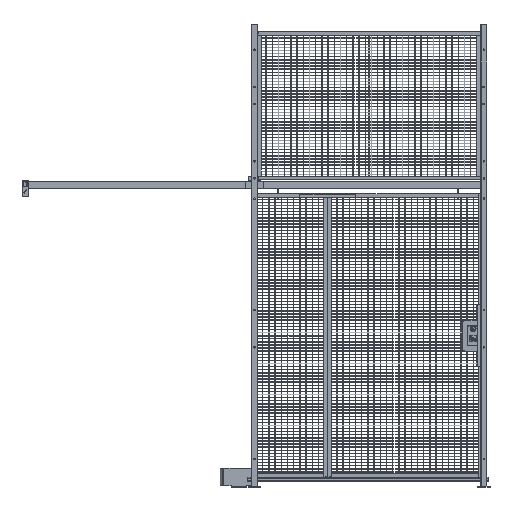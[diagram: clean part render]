
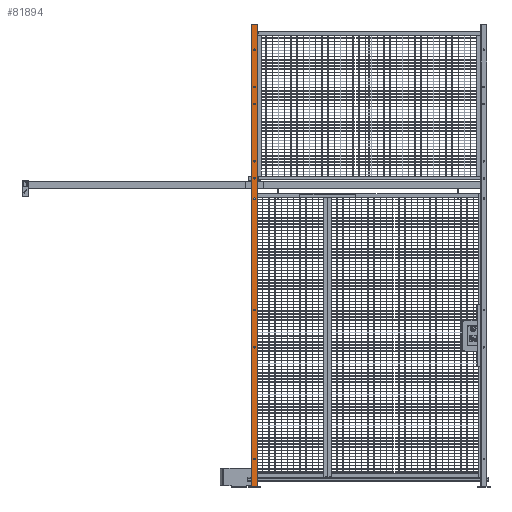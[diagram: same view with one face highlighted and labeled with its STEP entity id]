
A CAD part, top view. The second image highlights one B-rep face of the part: STEP entity #81894.
In plain terms, the highlighted planar face has unit normal (0, 0, 1) as drawn and (-1, 0, 0) by its records, which use the part's own axes.
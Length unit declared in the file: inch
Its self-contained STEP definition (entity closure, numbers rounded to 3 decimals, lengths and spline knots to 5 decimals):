
#584 = FACE_BOUND ( 'NONE', #25756, .T. ) ;
#2309 = AXIS2_PLACEMENT_3D ( 'NONE', #29673, #30892, #30492 ) ;
#2580 = CARTESIAN_POINT ( 'NONE',  ( -1., 0., 65.3125 ) ) ;
#3212 = ORIENTED_EDGE ( 'NONE', *, *, #73396, .F. ) ;
#3694 = CARTESIAN_POINT ( 'NONE',  ( -1., 0., 17.5625 ) ) ;
#4170 = ORIENTED_EDGE ( 'NONE', *, *, #22301, .F. ) ;
#6875 = DIRECTION ( 'NONE',  ( 0., -1., 0. ) ) ;
#7317 = PLANE ( 'NONE',  #73742 ) ;
#10904 = VERTEX_POINT ( 'NONE', #35796 ) ;
#11033 = VERTEX_POINT ( 'NONE', #36917 ) ;
#11409 = DIRECTION ( 'NONE',  ( 1., 0., 0. ) ) ;
#12076 = CIRCLE ( 'NONE', #16068, 0.25 ) ;
#12799 = FACE_BOUND ( 'NONE', #77821, .T. ) ;
#13190 = DIRECTION ( 'NONE',  ( 1., 0., 0. ) ) ;
#13495 = CARTESIAN_POINT ( 'NONE',  ( -1., -0.8506, 74.4375 ) ) ;
#13650 = CIRCLE ( 'NONE', #75103, 0.25 ) ;
#14280 = EDGE_CURVE ( 'NONE', #81808, #81808, #34692, .T. ) ;
#14469 = EDGE_CURVE ( 'NONE', #11033, #11033, #32047, .T. ) ;
#16068 = AXIS2_PLACEMENT_3D ( 'NONE', #30115, #61196, #22643 ) ;
#17940 = EDGE_LOOP ( 'NONE', ( #79124 ) ) ;
#18186 = CIRCLE ( 'NONE', #65021, 0.25 ) ;
#18281 = CIRCLE ( 'NONE', #55792, 0.25 ) ;
#18699 = AXIS2_PLACEMENT_3D ( 'NONE', #3694, #29199, #61485 ) ;
#18705 = CARTESIAN_POINT ( 'NONE',  ( -1., -0.8506, -74.4375 ) ) ;
#19032 = FACE_BOUND ( 'NONE', #25073, .T. ) ;
#19449 = FACE_OUTER_BOUND ( 'NONE', #71866, .T. ) ;
#19629 = ORIENTED_EDGE ( 'NONE', *, *, #14469, .T. ) ;
#19873 = DIRECTION ( 'NONE',  ( 0., 0., -1. ) ) ;
#20234 = ORIENTED_EDGE ( 'NONE', *, *, #77616, .T. ) ;
#20385 = LINE ( 'NONE', #52629, #69150 ) ;
#21203 = CIRCLE ( 'NONE', #70686, 0.25 ) ;
#21853 = VERTEX_POINT ( 'NONE', #67897 ) ;
#22301 = EDGE_CURVE ( 'NONE', #34336, #34336, #12076, .T. ) ;
#22643 = DIRECTION ( 'NONE',  ( 0., 0., -1. ) ) ;
#23497 = VECTOR ( 'NONE', #45726, 39.37008 ) ;
#24356 = DIRECTION ( 'NONE',  ( 0., 0., -1. ) ) ;
#24756 = VECTOR ( 'NONE', #6875, 39.37008 ) ;
#25073 = EDGE_LOOP ( 'NONE', ( #4170 ) ) ;
#25166 = DIRECTION ( 'NONE',  ( 0., 0., -1. ) ) ;
#25208 = CARTESIAN_POINT ( 'NONE',  ( -1., 0., -66.6875 ) ) ;
#25756 = EDGE_LOOP ( 'NONE', ( #50334 ) ) ;
#27441 = DIRECTION ( 'NONE',  ( 0., 0., -1. ) ) ;
#27640 = EDGE_CURVE ( 'NONE', #50022, #38432, #20385, .T. ) ;
#27890 = CIRCLE ( 'NONE', #2309, 0.25 ) ;
#28021 = AXIS2_PLACEMENT_3D ( 'NONE', #70705, #33367, #52288 ) ;
#28616 = CARTESIAN_POINT ( 'NONE',  ( -1., 0., -30.6875 ) ) ;
#29199 = DIRECTION ( 'NONE',  ( 1., 0., 0. ) ) ;
#29673 = CARTESIAN_POINT ( 'NONE',  ( -1., 0., 65.5625 ) ) ;
#30115 = CARTESIAN_POINT ( 'NONE',  ( -1., -0.04642, -48.9375 ) ) ;
#30186 = ORIENTED_EDGE ( 'NONE', *, *, #51839, .F. ) ;
#30492 = DIRECTION ( 'NONE',  ( 0., 0., -1. ) ) ;
#30892 = DIRECTION ( 'NONE',  ( 1., 0., 0. ) ) ;
#30947 = VECTOR ( 'NONE', #48250, 39.37008 ) ;
#31460 = CARTESIAN_POINT ( 'NONE',  ( -1., 0., -25.1875 ) ) ;
#32047 = CIRCLE ( 'NONE', #18699, 0.25 ) ;
#33367 = DIRECTION ( 'NONE',  ( -1., 0., 0. ) ) ;
#34139 = CARTESIAN_POINT ( 'NONE',  ( -1., 0., -30.4375 ) ) ;
#34336 = VERTEX_POINT ( 'NONE', #34767 ) ;
#34692 = CIRCLE ( 'NONE', #28021, 0.25 ) ;
#34767 = CARTESIAN_POINT ( 'NONE',  ( -1., -0.04642, -49.1875 ) ) ;
#34985 = VERTEX_POINT ( 'NONE', #42956 ) ;
#35410 = CARTESIAN_POINT ( 'NONE',  ( -1., -0.04642, -54.6875 ) ) ;
#35796 = CARTESIAN_POINT ( 'NONE',  ( -1., -0.8506, 74.4375 ) ) ;
#36917 = CARTESIAN_POINT ( 'NONE',  ( -1., 0., 17.3125 ) ) ;
#37695 = DIRECTION ( 'NONE',  ( 1., 0., 0. ) ) ;
#37748 = VERTEX_POINT ( 'NONE', #31460 ) ;
#37846 = FACE_BOUND ( 'NONE', #67841, .T. ) ;
#38108 = CIRCLE ( 'NONE', #60968, 0.25 ) ;
#38413 = EDGE_CURVE ( 'NONE', #80631, #80631, #38108, .T. ) ;
#38432 = VERTEX_POINT ( 'NONE', #63959 ) ;
#39097 = FACE_BOUND ( 'NONE', #17940, .T. ) ;
#39572 = CARTESIAN_POINT ( 'NONE',  ( -1., -0.04642, -54.4375 ) ) ;
#40457 = DIRECTION ( 'NONE',  ( -1., 0., 0. ) ) ;
#40691 = LINE ( 'NONE', #41955, #30947 ) ;
#40791 = CARTESIAN_POINT ( 'NONE',  ( -1., 0., -24.9375 ) ) ;
#40880 = EDGE_CURVE ( 'NONE', #34985, #34985, #18186, .T. ) ;
#41814 = EDGE_LOOP ( 'NONE', ( #20234 ) ) ;
#41955 = CARTESIAN_POINT ( 'NONE',  ( -1., -0.8506, 74.4375 ) ) ;
#42956 = CARTESIAN_POINT ( 'NONE',  ( -1., 0., 29.3125 ) ) ;
#45011 = CARTESIAN_POINT ( 'NONE',  ( -1., -0.8506, 74.4375 ) ) ;
#45726 = DIRECTION ( 'NONE',  ( 0., 0., -1. ) ) ;
#46124 = ORIENTED_EDGE ( 'NONE', *, *, #77910, .T. ) ;
#46640 = VERTEX_POINT ( 'NONE', #18705 ) ;
#48250 = DIRECTION ( 'NONE',  ( 0., -1., 0. ) ) ;
#50022 = VERTEX_POINT ( 'NONE', #70237 ) ;
#50334 = ORIENTED_EDGE ( 'NONE', *, *, #40880, .T. ) ;
#51289 = FACE_BOUND ( 'NONE', #57072, .T. ) ;
#51687 = CARTESIAN_POINT ( 'NONE',  ( -1., -0.8506, -74.4375 ) ) ;
#51839 = EDGE_CURVE ( 'NONE', #50022, #10904, #40691, .T. ) ;
#52088 = LINE ( 'NONE', #51687, #24756 ) ;
#52288 = DIRECTION ( 'NONE',  ( 0., 0., -1. ) ) ;
#52629 = CARTESIAN_POINT ( 'NONE',  ( -1., 0.8506, 74.4375 ) ) ;
#52844 = ORIENTED_EDGE ( 'NONE', *, *, #38413, .F. ) ;
#52970 = DIRECTION ( 'NONE',  ( 0., 0., -1. ) ) ;
#54397 = ORIENTED_EDGE ( 'NONE', *, *, #56072, .T. ) ;
#55376 = EDGE_LOOP ( 'NONE', ( #52844 ) ) ;
#55792 = AXIS2_PLACEMENT_3D ( 'NONE', #34139, #40457, #57823 ) ;
#56072 = EDGE_CURVE ( 'NONE', #38432, #46640, #52088, .T. ) ;
#57072 = EDGE_LOOP ( 'NONE', ( #73507 ) ) ;
#57823 = DIRECTION ( 'NONE',  ( 0., 0., -1. ) ) ;
#58258 = EDGE_CURVE ( 'NONE', #80537, #80537, #18281, .T. ) ;
#60968 = AXIS2_PLACEMENT_3D ( 'NONE', #39572, #65186, #27441 ) ;
#61196 = DIRECTION ( 'NONE',  ( -1., 0., 0. ) ) ;
#61485 = DIRECTION ( 'NONE',  ( 0., 0., -1. ) ) ;
#61630 = VERTEX_POINT ( 'NONE', #2580 ) ;
#61680 = CARTESIAN_POINT ( 'NONE',  ( -1., 0., 29.5625 ) ) ;
#61704 = EDGE_LOOP ( 'NONE', ( #62050 ) ) ;
#62050 = ORIENTED_EDGE ( 'NONE', *, *, #14280, .F. ) ;
#63959 = CARTESIAN_POINT ( 'NONE',  ( -1., 0.8506, -74.4375 ) ) ;
#63998 = ORIENTED_EDGE ( 'NONE', *, *, #27640, .T. ) ;
#64288 = FACE_BOUND ( 'NONE', #41814, .T. ) ;
#65021 = AXIS2_PLACEMENT_3D ( 'NONE', #61680, #11409, #24356 ) ;
#65186 = DIRECTION ( 'NONE',  ( -1., 0., 0. ) ) ;
#65417 = LINE ( 'NONE', #13495, #23497 ) ;
#65750 = EDGE_CURVE ( 'NONE', #37748, #37748, #13650, .T. ) ;
#67841 = EDGE_LOOP ( 'NONE', ( #46124 ) ) ;
#67897 = CARTESIAN_POINT ( 'NONE',  ( -1., 0., -18.6875 ) ) ;
#69150 = VECTOR ( 'NONE', #71856, 39.37008 ) ;
#70108 = FACE_BOUND ( 'NONE', #61704, .T. ) ;
#70237 = CARTESIAN_POINT ( 'NONE',  ( -1., 0.8506, 74.4375 ) ) ;
#70686 = AXIS2_PLACEMENT_3D ( 'NONE', #76226, #37695, #25166 ) ;
#70705 = CARTESIAN_POINT ( 'NONE',  ( -1., 0., -66.4375 ) ) ;
#71856 = DIRECTION ( 'NONE',  ( 0., 0., -1. ) ) ;
#71866 = EDGE_LOOP ( 'NONE', ( #54397, #3212, #30186, #63998 ) ) ;
#72184 = DIRECTION ( 'NONE',  ( -1., 0., 0. ) ) ;
#73396 = EDGE_CURVE ( 'NONE', #10904, #46640, #65417, .T. ) ;
#73507 = ORIENTED_EDGE ( 'NONE', *, *, #58258, .F. ) ;
#73742 = AXIS2_PLACEMENT_3D ( 'NONE', #45011, #13190, #19873 ) ;
#75103 = AXIS2_PLACEMENT_3D ( 'NONE', #40791, #72184, #52970 ) ;
#76226 = CARTESIAN_POINT ( 'NONE',  ( -1., 0., -18.4375 ) ) ;
#77211 = FACE_BOUND ( 'NONE', #55376, .T. ) ;
#77616 = EDGE_CURVE ( 'NONE', #21853, #21853, #21203, .T. ) ;
#77821 = EDGE_LOOP ( 'NONE', ( #19629 ) ) ;
#77910 = EDGE_CURVE ( 'NONE', #61630, #61630, #27890, .T. ) ;
#79124 = ORIENTED_EDGE ( 'NONE', *, *, #65750, .F. ) ;
#80537 = VERTEX_POINT ( 'NONE', #28616 ) ;
#80631 = VERTEX_POINT ( 'NONE', #35410 ) ;
#81808 = VERTEX_POINT ( 'NONE', #25208 ) ;
#81894 = ADVANCED_FACE ( 'NONE', ( #19032, #77211, #39097, #70108, #51289, #37846, #584, #12799, #64288, #19449 ), #7317, .F. ) ;
